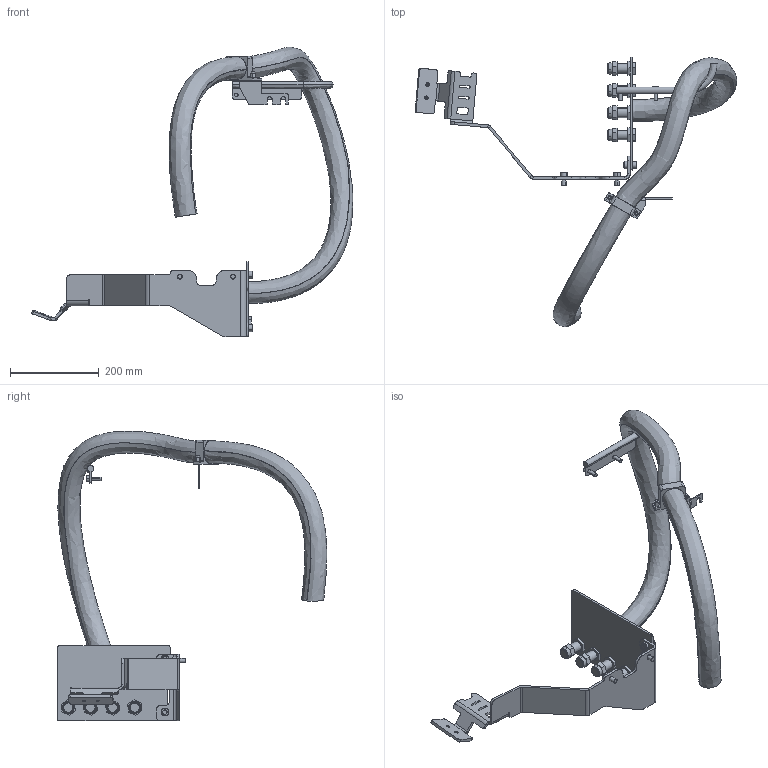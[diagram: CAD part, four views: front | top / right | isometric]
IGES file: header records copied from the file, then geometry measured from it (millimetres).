
Start section: SolidWorks IGES file using analytic representation for surfaces
Global section: file name: C:\Data\SAP_DOC\IRB6740_lightweight\6740\IRB6740-MH3_240kg-320_OC_01_SW_J\IRB6740-MH3_240kg-320_OC_01_IGES_J\IRB6740-MH3_240kg-320_OC_00_LINK03a_CABLE.igs; native system: SolidWorks 2024; preprocessor: SolidWorks 2024; author: SEJAOLS6; date: 260513.071557; units: millimetre
Bounding box: 725.14 x 608.07 x 653.62 mm (x, y, z)
Surface area: 515461.9 mm2 (no closed solid volume)
Topology: 0 solids, 0 shells, 495 faces, 6901 edges, 6901 vertices
Faces by surface type: bspline 305, revolution 190
